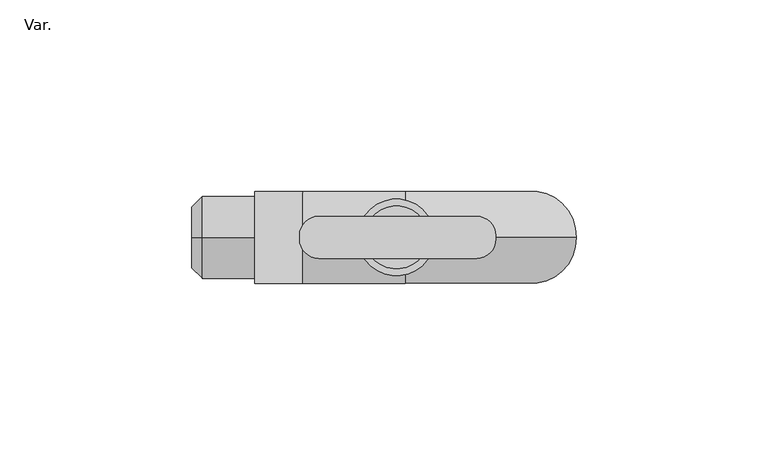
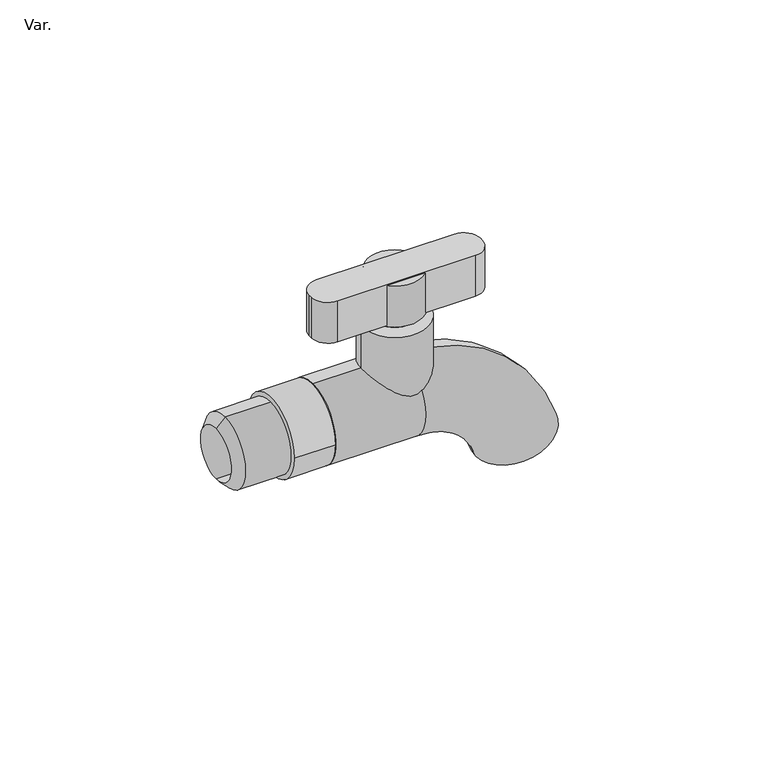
"""IFC4 building model written with IfcOpenShell, lengths in millimetres: pipe fitting geometry, AmancoWavin_Unionesdetubería_AguaPotableLlavedeChorroBRLiviana : Var.."""

from ifc_helpers import new_model, si_unit, point, frame, frame_2d, origin, origin_2d, place, context, project, spatial, polyline, circle_curve, ellipse_curve, trimmed, segment, composite_curve, outline, extrude, source, transform, mapped, element, save
from ifc_brep_helpers import plane_surface, cylinder_surface, revolved_surface, advanced_brep


def var_a0032983(model_context):
    return source(origin(), model_context, "Body", "SolidModel", [
        extrude(outline(composite_curve([segment(trimmed(circle_curve(frame_2d((33.1748048, -0.485)), 5.0), [point((33.1748048, -5.485))], [point((28.1748048, -0.485))], False, "CARTESIAN"), True, "CONTINUOUS"), segment(polyline([(28.1748048, -0.485), (28.1748048, 0.485)]), True, "CONTINUOUS"), segment(trimmed(circle_curve(frame_2d((33.1748048, 0.485)), 5.0), [point((28.1748048, 0.485))], [point((33.1748048, 5.485))], False, "CARTESIAN"), True, "CONTINUOUS"), segment(polyline([(33.1748048, 5.485), (74.3748048, 5.485)]), True, "CONTINUOUS"), segment(trimmed(circle_curve(frame_2d((74.3748048, 0.485)), 5.0), [point((74.3748048, 5.485))], [point((79.3748048, 0.485))], False, "CARTESIAN"), True, "CONTINUOUS"), segment(polyline([(79.3748048, 0.485), (79.3748048, -0.485)]), True, "CONTINUOUS"), segment(trimmed(circle_curve(frame_2d((74.3748048, -0.485)), 5.0), [point((79.3748048, -0.485))], [point((74.3748048, -5.485))], False, "CARTESIAN"), True, "CONTINUOUS"), segment(polyline([(74.3748048, -5.485), (33.1748048, -5.485)]), True, "CONTINUOUS")], self_intersect=False)), frame((0.0, 0.0, 27.09), z_axis=(0.0, 0.0, 1.0), x_axis=(1.0, 0.0, 0.0)), (0.0, 0.0, 1.0), 12.91),
        advanced_brep(
        [(63.4623048, 0.0, 25.0), (43.4623048, 0.0, 25.0), (43.4623048, 0.0, 0.0), (63.4623048, 0.0, 0.0), (58.9473048, 0.0, 25.0), (47.9773048, 0.0, 25.0), (58.9473048, 0.0, 27.09), (47.9773048, 0.0, 27.09), (61.6898048, 0.0, 27.09), (45.2348048, 0.0, 27.09), (61.6898048, 0.0, 40.0), (45.2348048, 0.0, 40.0), (53.4623048, 0.0, 40.0), (53.4623048, 0.0, 0.0)],
        [
            (0, 1, circle_curve(frame((53.4623048, 0.0, 25.0), z_axis=(0.0, 0.0, -1.0), x_axis=(-1.0, 0.0, 0.0)), 10.0)),
            (1, 2),
            (2, 3, circle_curve(frame((53.4623048, 0.0, 0.0), z_axis=(0.0, 0.0, 1.0), x_axis=(-1.0, 0.0, 0.0)), 10.0)),
            (3, 0),
            (1, 0, circle_curve(frame((53.4623048, 0.0, 25.0), z_axis=(0.0, 0.0, -1.0), x_axis=(-1.0, 0.0, 0.0)), 10.0)),
            (3, 2, circle_curve(frame((53.4623048, 0.0, 0.0), z_axis=(0.0, 0.0, 1.0), x_axis=(-1.0, 0.0, 0.0)), 10.0)),
            (4, 5, circle_curve(frame((53.4623048, 0.0, 25.0), z_axis=(0.0, 0.0, -1.0), x_axis=(-1.0, 0.0, 0.0)), 5.485)),
            (5, 1),
            (0, 4),
            (5, 4, circle_curve(frame((53.4623048, 0.0, 25.0), z_axis=(0.0, 0.0, -1.0), x_axis=(-1.0, 0.0, 0.0)), 5.485)),
            (6, 7, circle_curve(frame((53.4623048, 0.0, 27.09), z_axis=(0.0, 0.0, -1.0), x_axis=(-1.0, 0.0, 0.0)), 5.485)),
            (7, 5),
            (4, 6),
            (7, 6, circle_curve(frame((53.4623048, 0.0, 27.09), z_axis=(0.0, 0.0, -1.0), x_axis=(-1.0, 0.0, 0.0)), 5.485)),
            (8, 9, circle_curve(frame((53.4623048, 0.0, 27.09), z_axis=(0.0, 0.0, -1.0), x_axis=(-1.0, 0.0, 0.0)), 8.2275)),
            (9, 7),
            (6, 8),
            (9, 8, circle_curve(frame((53.4623048, 0.0, 27.09), z_axis=(0.0, 0.0, -1.0), x_axis=(-1.0, 0.0, 0.0)), 8.2275)),
            (10, 11, circle_curve(frame((53.4623048, 0.0, 40.0), z_axis=(0.0, 0.0, -1.0), x_axis=(-1.0, 0.0, 0.0)), 8.2275)),
            (11, 9),
            (8, 10),
            (11, 10, circle_curve(frame((53.4623048, 0.0, 40.0), z_axis=(0.0, 0.0, -1.0), x_axis=(-1.0, 0.0, 0.0)), 8.2275)),
            (12, 11),
            (10, 12),
            (2, 13),
            (13, 3),
        ],
        [
            cylinder_surface(frame((53.4623048, 0.0, 24.1815381), z_axis=(0.0, 0.0, 1.0), x_axis=(-1.0, 0.0, 0.0)), 10.0),
            plane_surface(frame((53.4623048, 0.0, 25.0), z_axis=(0.0, 0.0, 1.0), x_axis=(-1.0, 0.0, 0.0))),
            cylinder_surface(frame((53.4623048, 0.0, 24.1815381), z_axis=(0.0, 0.0, 1.0), x_axis=(-1.0, 0.0, 0.0)), 5.485),
            plane_surface(frame((53.4623048, 0.0, 27.09), z_axis=(0.0, 0.0, -1.0), x_axis=(-1.0, 0.0, 0.0))),
            cylinder_surface(frame((53.4623048, 0.0, 24.1815381), z_axis=(0.0, 0.0, 1.0), x_axis=(-1.0, 0.0, 0.0)), 8.2275),
            plane_surface(frame((53.4623048, 0.0, 40.0), z_axis=(0.0, 0.0, 1.0), x_axis=(-1.0, 0.0, 0.0))),
            plane_surface(frame((53.4623048, 0.0, 0.0), z_axis=(0.0, 0.0, -1.0), x_axis=(-1.0, 0.0, 0.0))),
        ],
        [
            (0, [[1, 2, 3, 4]]),
            (0, [[5, -4, 6, -2]]),
            (1, [[7, 8, -1, 9]]),
            (1, [[10, -9, -5, -8]]),
            (2, [[11, 12, -7, 13]]),
            (2, [[14, -13, -10, -12]]),
            (3, [[15, 16, -11, 17]]),
            (3, [[18, -17, -14, -16]]),
            (4, [[19, 20, -15, 21]]),
            (4, [[22, -21, -18, -20]]),
            (5, [[23, -19, 24]]),
            (5, [[-24, -22, -23]]),
            (6, [[-3, 25, 26]]),
            (6, [[-6, -26, -25]]),
        ],
    ),
        advanced_brep(
        [(28.95, 0.0, -12.0), (28.95, 0.0, 12.0), (28.95, 0.0, -7.08), (28.95, 0.0, 7.08), (55.702792, 0.0, -12.0), (55.702792, 0.0, 12.0), (55.702792, 0.0, -7.08), (55.702792, 0.0, 7.08), (77.5871001, 0.0, -27.9234854), (100.4228999, 0.0, -20.5392962), (82.2684391, 0.0, -26.4097266), (95.7415609, 0.0, -22.053055)],
        [
            (0, 1, circle_curve(frame((28.95, 0.0, 0.0), z_axis=(-1.0, 0.0, 0.0), x_axis=(0.0, 0.0, 1.0)), 12.0)),
            (1, 0, circle_curve(frame((28.95, 0.0, 0.0), z_axis=(-1.0, 0.0, 0.0), x_axis=(0.0, 0.0, 1.0)), 12.0)),
            (2, 3, circle_curve(frame((28.95, 0.0, 0.0), z_axis=(1.0, 0.0, 0.0), x_axis=(0.0, 0.0, 1.0)), 7.08)),
            (3, 2, circle_curve(frame((28.95, 0.0, 0.0), z_axis=(1.0, 0.0, 0.0), x_axis=(0.0, 0.0, 1.0)), 7.08)),
            (0, 4),
            (4, 5, circle_curve(frame((55.702792, 0.0, 0.0), z_axis=(-1.0, 0.0, 0.0), x_axis=(0.0, 0.0, 1.0)), 12.0)),
            (5, 1),
            (5, 4, circle_curve(frame((55.702792, 0.0, 0.0), z_axis=(-1.0, 0.0, 0.0), x_axis=(0.0, 0.0, 1.0)), 12.0)),
            (2, 6),
            (6, 7, circle_curve(frame((55.702792, 0.0, 0.0), z_axis=(1.0, 0.0, 0.0), x_axis=(0.0, 0.0, 1.0)), 7.08)),
            (7, 3),
            (7, 6, circle_curve(frame((55.702792, 0.0, 0.0), z_axis=(1.0, 0.0, 0.0), x_axis=(0.0, 0.0, 1.0)), 7.08)),
            (8, 9, circle_curve(frame((89.005, 0.0, -24.2313908), z_axis=(0.3076745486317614, 0.0, -0.9514916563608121), x_axis=(0.9514916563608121, 0.0, 0.3076745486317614)), 12.0)),
            (9, 8, circle_curve(frame((89.005, 0.0, -24.2313908), z_axis=(0.3076745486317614, 0.0, -0.9514916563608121), x_axis=(0.9514916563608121, 0.0, 0.3076745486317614)), 12.0)),
            (10, 11, circle_curve(frame((89.005, 0.0, -24.2313908), z_axis=(-0.3076745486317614, 0.0, 0.9514916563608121), x_axis=(0.9514916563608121, 0.0, 0.3076745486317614)), 7.08)),
            (11, 10, circle_curve(frame((89.005, 0.0, -24.2313908), z_axis=(-0.3076745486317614, 0.0, 0.9514916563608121), x_axis=(0.9514916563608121, 0.0, 0.3076745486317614)), 7.08)),
            (9, 5, circle_curve(frame((55.702792, 0.0, -35.0), z_axis=(0.0, -1.0, 0.0), x_axis=(0.0, 0.0, 1.0)), 47.0)),
            (4, 8, circle_curve(frame((55.702792, 0.0, -35.0), z_axis=(0.0, 1.0, 0.0), x_axis=(0.0, 0.0, 1.0)), 23.0)),
            (11, 7, circle_curve(frame((55.702792, 0.0, -35.0), z_axis=(0.0, -1.0, 0.0), x_axis=(0.0, 0.0, 1.0)), 42.08)),
            (6, 10, circle_curve(frame((55.702792, 0.0, -35.0), z_axis=(0.0, 1.0, 0.0), x_axis=(0.0, 0.0, 1.0)), 27.92)),
        ],
        [
            plane_surface(frame((28.95, 0.0, 0.0), z_axis=(-1.0, 0.0, 0.0), x_axis=(0.0, -1.0, 0.0))),
            cylinder_surface(frame((28.95, 0.0, 0.0), z_axis=(-1.0, 0.0, 0.0), x_axis=(0.0, 0.0, 1.0)), 12.0),
            revolved_surface(polyline([(55.702792, 0.0, 7.08), (28.95, 0.0, 7.08)]), (28.95, 0.0, 0.0), (1.0, 0.0, 0.0)),
            plane_surface(frame((89.005, 0.0, -24.2313908), z_axis=(0.30767454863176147, 0.0, -0.9514916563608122), x_axis=(0.0, -1.0, 0.0))),
            revolved_surface(trimmed(ellipse_curve(frame((55.702792, 0.0, 0.0), z_axis=(-1.0, 0.0, 0.0), x_axis=(0.0, 0.0, 1.0)), 12.0, 12.0), [point((55.702792, 0.0, -12.0))], [point((55.702792, 0.0, 12.0))], True, "CARTESIAN"), (55.702792, 0.0, -35.0), (0.0, 1.0, 0.0)),
            revolved_surface(trimmed(ellipse_curve(frame((55.702792, 0.0, 0.0), z_axis=(-1.0, 0.0, 0.0), x_axis=(0.0, 0.0, 1.0)), 12.0, 12.0), [point((55.702792, 0.0, 12.0))], [point((55.702792, 0.0, -12.0))], True, "CARTESIAN"), (55.702792, 0.0, -35.0), (0.0, 1.0, 0.0)),
            revolved_surface(trimmed(ellipse_curve(frame((55.702792, 0.0, 0.0), z_axis=(1.0, 0.0, 0.0), x_axis=(0.0, 0.0, 1.0)), 7.08, 7.08), [point((55.702792, 0.0, -7.08))], [point((55.702792, 0.0, 7.08))], True, "CARTESIAN"), (55.702792, 0.0, -35.0), (0.0, 1.0, 0.0)),
            revolved_surface(trimmed(ellipse_curve(frame((55.702792, 0.0, 0.0), z_axis=(1.0, 0.0, 0.0), x_axis=(0.0, 0.0, 1.0)), 7.08, 7.08), [point((55.702792, 0.0, 7.08))], [point((55.702792, 0.0, -7.08))], True, "CARTESIAN"), (55.702792, 0.0, -35.0), (0.0, 1.0, 0.0)),
        ],
        [
            (0, [[1, 2], [3, 4]]),
            (1, [[-1, 5, 6, 7]]),
            (1, [[-2, -7, 8, -5]]),
            (2, [[-3, 9, 10, 11]]),
            (2, [[-4, -11, 12, -9]]),
            (3, [[13, 14], [15, 16]]),
            (4, [[17, -6, 18, -14]]),
            (5, [[-18, -8, -17, -13]]),
            (6, [[19, -10, 20, -16]]),
            (7, [[-20, -12, -19, -15]]),
        ],
    ),
        extrude(outline(composite_curve([segment(trimmed(circle_curve(origin_2d(), 12.0), [point((-12.0, 0.0))], [point((12.0, 0.0))], False, "CARTESIAN"), True, "CONTINUOUS"), segment(trimmed(circle_curve(origin_2d(), 12.0), [point((12.0, 0.0))], [point((-12.0, 0.0))], False, "CARTESIAN"), True, "CONTINUOUS")], self_intersect=False)), frame((16.46, 0.0, 0.0), z_axis=(1.0, 0.0, 0.0), x_axis=(0.0, 1.0, 0.0)), (0.0, 0.0, 1.0), 12.49),
        advanced_brep(
        [(2.72, 0.0, -10.72), (2.72, 0.0, 10.72), (16.46, 0.0, 10.72), (16.46, 0.0, -10.72), (0.0, 0.0, -8.0), (0.0, 0.0, 8.0), (16.46, 0.0, -8.0), (16.46, 0.0, 8.0)],
        [
            (0, 1, circle_curve(frame((2.72, 0.0, 0.0), z_axis=(1.0, 0.0, 0.0), x_axis=(0.0, 0.0, 1.0)), 10.72)),
            (1, 2),
            (2, 3, circle_curve(frame((16.46, 0.0, 0.0), z_axis=(-1.0, 0.0, 0.0), x_axis=(0.0, 0.0, 1.0)), 10.72)),
            (3, 0),
            (1, 0, circle_curve(frame((2.72, 0.0, 0.0), z_axis=(1.0, 0.0, 0.0), x_axis=(0.0, 0.0, 1.0)), 10.72)),
            (3, 2, circle_curve(frame((16.46, 0.0, 0.0), z_axis=(-1.0, 0.0, 0.0), x_axis=(0.0, 0.0, 1.0)), 10.72)),
            (4, 5, circle_curve(frame((0.0, 0.0, 0.0), z_axis=(1.0, 0.0, 0.0), x_axis=(0.0, 0.0, 1.0)), 8.0)),
            (5, 1),
            (0, 4),
            (5, 4, circle_curve(frame((0.0, 0.0, 0.0), z_axis=(1.0, 0.0, 0.0), x_axis=(0.0, 0.0, 1.0)), 8.0)),
            (6, 7, circle_curve(frame((16.46, 0.0, 0.0), z_axis=(1.0, 0.0, 0.0), x_axis=(0.0, 0.0, 1.0)), 8.0)),
            (7, 5),
            (4, 6),
            (7, 6, circle_curve(frame((16.46, 0.0, 0.0), z_axis=(1.0, 0.0, 0.0), x_axis=(0.0, 0.0, 1.0)), 8.0)),
            (2, 7),
            (6, 3),
        ],
        [
            cylinder_surface(frame((-1346.7719047, 0.0, 0.0), z_axis=(-1.0, 0.0, 0.0), x_axis=(0.0, 0.0, 1.0)), 10.72),
            revolved_surface(polyline([(2.72, 0.0, 10.72), (0.0, 0.0, 8.0)]), (-1346.7719047, 0.0, 0.0), (-1.0, 0.0, 0.0)),
            revolved_surface(polyline([(0.0, 0.0, 8.0), (16.460000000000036, 0.0, 8.0)]), (-1346.7719047, 0.0, 0.0), (-1.0, 0.0, 0.0)),
            plane_surface(frame((16.46, 0.0, 0.0), z_axis=(1.0, 0.0, 0.0), x_axis=(0.0, 0.0, 1.0))),
        ],
        [
            (0, [[1, 2, 3, 4]]),
            (0, [[5, -4, 6, -2]]),
            (1, [[7, 8, -1, 9]]),
            (1, [[10, -9, -5, -8]]),
            (2, [[11, 12, -7, 13]]),
            (2, [[14, -13, -10, -12]]),
            (3, [[-3, 15, -11, 16]]),
            (3, [[-6, -16, -14, -15]]),
        ],
    ),
    ])


if __name__ == "__main__":
    model = new_model("IFC4")
    model_context = context("Model", 3, world=origin())
    ifc_project = project(units=[si_unit("LENGTHUNIT", "METRE", prefix="MILLI")], contexts=[model_context])
    site = spatial("IfcSite", under=ifc_project)
    building = spatial("IfcBuilding", under=site)
    placement = place(None, origin())
    var_shape = var_a0032983(model_context)
    element("IfcPipeFitting", 1, ObjectType="AmancoWavin_Unionesdetubería_AguaPotableLlavedeChorroBRLiviana : Var.", at=placement, inside=building, context=model_context, shape_type="MappedRepresentation", body=[
        mapped(var_shape, transform((0.0, 0.0, 0.0), x_axis=(1.0, 0.0, 0.0), y_axis=(0.0, 1.0, 0.0), z_axis=(0.0, 0.0, 1.0))),
    ])
    save(model, "model.ifc")
